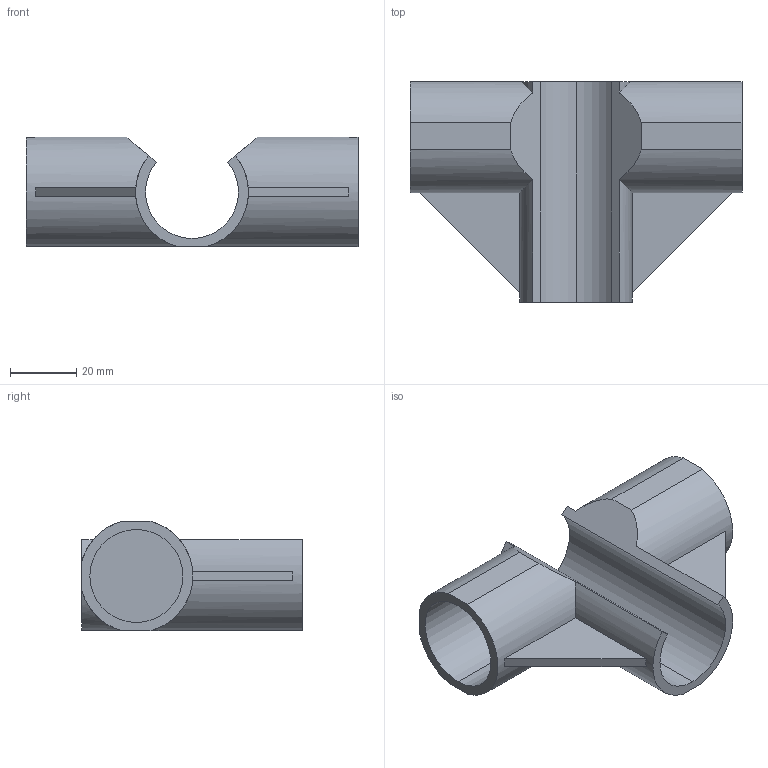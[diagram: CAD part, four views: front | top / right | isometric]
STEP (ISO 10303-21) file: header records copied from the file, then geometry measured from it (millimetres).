
FILE_DESCRIPTION (( 'STEP AP214' ), '1' );
FILE_NAME ('PJ-208.STEP', '2023-09-12T11:05:07', ( 'catia' ), ( 'HP Inc.' ), 'SwSTEP 2.0', 'SolidWorks 2021', '' );
FILE_SCHEMA (( 'AUTOMOTIVE_DESIGN' ));
Length unit declared in the file: millimetre
Products named in the file (1): PJ-208
Bounding box: 100 x 66.5 x 33 mm (x, y, z)
Volume: 42299.3 mm3; surface area: 25108.1 mm2
Topology: 1 solids, 1 shells, 35 faces, 93 edges, 62 vertices
Faces by surface type: cylinder 18, plane 17
Entity records: 1125 total; most frequent: CARTESIAN_POINT 239, ORIENTED_EDGE 186, DIRECTION 173, EDGE_CURVE 93, VERTEX_POINT 62, AXIS2_PLACEMENT_3D 60, LINE 53, VECTOR 53
